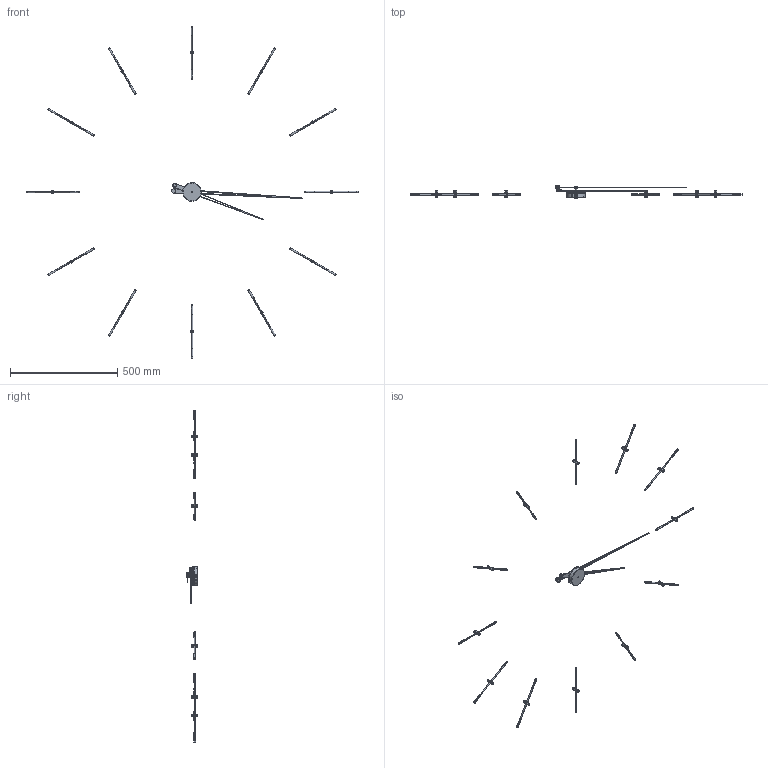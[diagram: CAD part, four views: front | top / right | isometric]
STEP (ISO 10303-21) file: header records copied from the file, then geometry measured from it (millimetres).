
FILE_DESCRIPTION (( 'STEP AP214' ), '1' );
FILE_NAME ('Merlín n_155.STEP', '2016-09-30T07:40:04', ( '' ), ( '' ), 'SwSTEP 2.0', 'SolidWorks 2016', '' );
FILE_SCHEMA (( 'AUTOMOTIVE_DESIGN' ));
Length unit declared in the file: millimetre
Products named in the file (26): Arandela_2; Contrapeso grande; Caja_acero_inox; aguja_horaria_calada_nogal; Pieza_caja_inferior; Pieza_caja_superior; Embellecedor; Tuerca 1.5; Mecanismo; Pasante; Esparrago_roscado_merlin; Contrapeso_pequeño; aguja_minutera_calada_nogal; Señal_horaria_merlín; Varilla_nogal_señal_horaria_merlín; Aguja_horaria_calada_nogal; Esparrago; Tuerca; Embellecedor_señal_horaria_merlín; Casquillo_señal_horaria_merlín; Pieza2; Anclaje_señal_horaria_merlin; Merlín n_155; Axioma_n_100; Cierre_contrapeso; Aguja_minutera_calada_nogal
Assembly tree (39 placements, depth 4):
  Merlín n_155
    Axioma_n_100
      Caja_acero_inox
        Pieza_caja_inferior
        Pieza_caja_superior
        Mecanismo
        Pieza2
      Aguja_horaria_calada_nogal
        aguja_horaria_calada_nogal
        Contrapeso_pequeño
        Cierre_contrapeso
        Arandela_2
        Tuerca
        Pasante
      Aguja_minutera_calada_nogal
        aguja_minutera_calada_nogal
        Contrapeso grande  x2
        Arandela_2
        Embellecedor
        Esparrago
        Tuerca 1.5
    Señal_horaria_merlín  x12
      Anclaje_señal_horaria_merlin
      Casquillo_señal_horaria_merlín
      Embellecedor_señal_horaria_merlín
      Esparrago_roscado_merlin
      Varilla_nogal_señal_horaria_merlín
Bounding box: 1550.18 x 55.1 x 1550.18 mm (x, y, z)
Volume: 223412.1 mm3; surface area: 221230.7 mm2
Topology: 89 solids, 89 shells, 684 faces, 1388 edges, 910 vertices
Faces by surface type: cylinder 392, plane 254, torus 26, cone 12
Entity records: 7808 total; most frequent: CARTESIAN_POINT 1354, DIRECTION 1326, ORIENTED_EDGE 988, AXIS2_PLACEMENT_3D 562, EDGE_CURVE 494, VERTEX_POINT 314, EDGE_LOOP 282, CIRCLE 280
